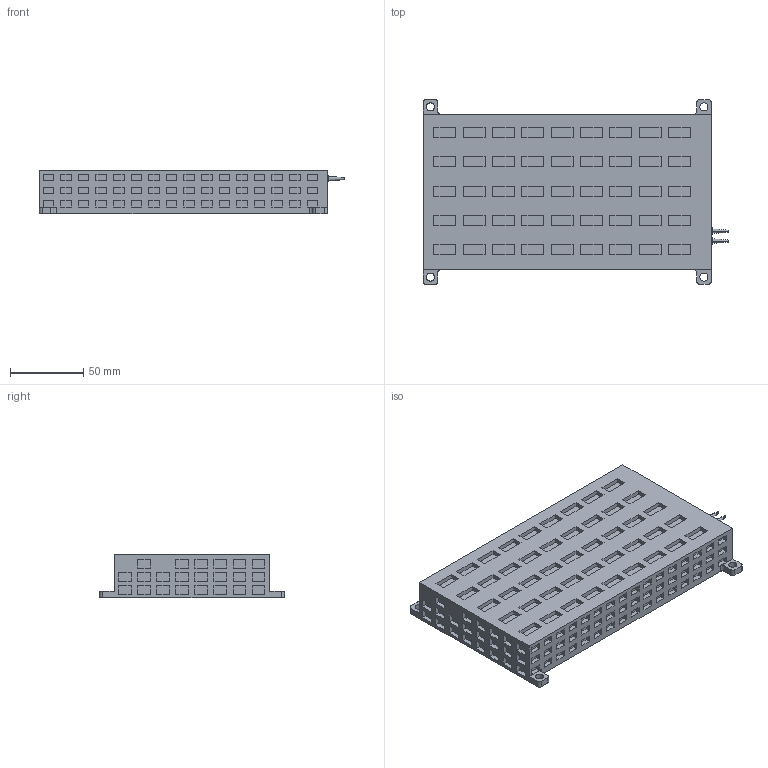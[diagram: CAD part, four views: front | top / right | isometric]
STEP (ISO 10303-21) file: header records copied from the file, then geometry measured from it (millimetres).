
FILE_DESCRIPTION(/* description */ (''),/* implementation_level */ '2;1');
FILE_NAME(/* name */ '新装配体.stp',/* time_stamp */ '2026-07-21T15:42:10+08:00',/* author */ (''),/* organization */ (''),/* preprocessor_version */ 'ST-DEVELOPER v20.1',/* originating_system */ 'SIEMENS PLM Software NX2512.1700',/* authorisation */ '');
FILE_SCHEMA (('AUTOMOTIVE_DESIGN { 1 0 10303 214 3 1 1 1 }'));
Length unit declared in the file: millimetre
Products named in the file (1): 模型_stp
Bounding box: 208.5 x 126 x 30 mm (x, y, z)
Volume: 596692.2 mm3; surface area: 77621.2 mm2
Topology: 3 solids, 3 shells, 962 faces, 2324 edges, 1548 vertices
Faces by surface type: plane 934, cylinder 24, cone 4
Full cylindrical faces by diameter (mm): 5.5 x4
Entity records: 27539 total; most frequent: CARTESIAN_POINT 4831, ORIENTED_EDGE 4640, DIRECTION 4302, EDGE_CURVE 2320, LINE 2264, VECTOR 2264, VERTEX_POINT 1548, EDGE_LOOP 1162
